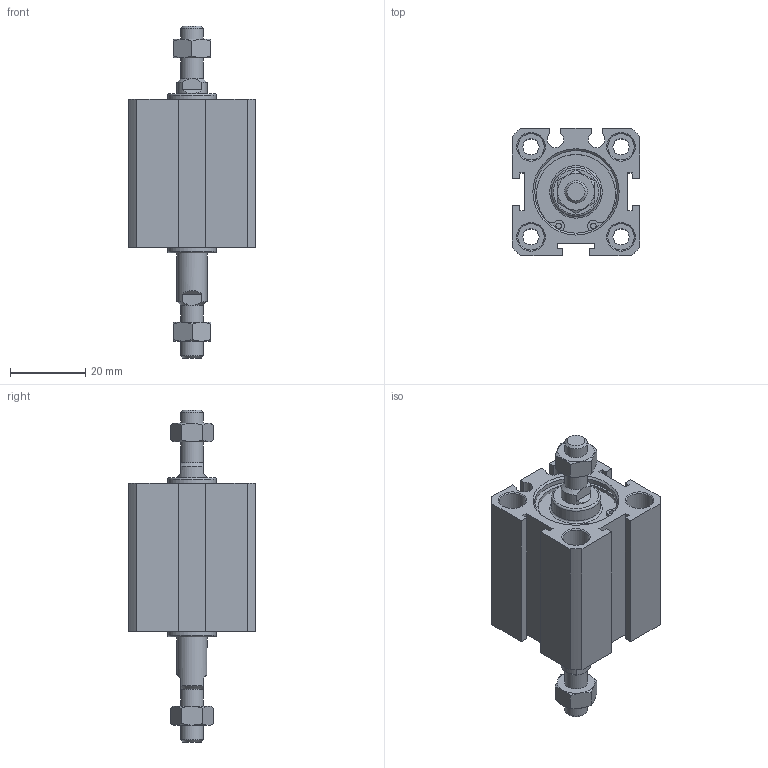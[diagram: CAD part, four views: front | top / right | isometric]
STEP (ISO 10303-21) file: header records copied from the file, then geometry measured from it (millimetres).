
FILE_DESCRIPTION((''),'2;1');
FILE_NAME('I:\3D電子目錄\氣缸\JDD\JDD-BS\JDD20-BS\JDD20x10-BS.stp','2007-02-27T13:32:22',('662F206'),(''),'Autodesk Inventor 10','Autodesk Inventor 10','');
FILE_SCHEMA(('AUTOMOTIVE_DESIGN { 1 0 10303 214 1 1 1 1 }'));
Length unit declared in the file: millimetre
Products named in the file (3): JDD20-BS; R 形環 23
Assembly tree (3 placements, depth 2):
  JDD20-BS
    JDD20-BS
    R 形環 23  x2
Bounding box: 34 x 34 x 88.5 mm (x, y, z)
Volume: 38412.9 mm3; surface area: 15014.1 mm2
Topology: 3 solids, 3 shells, 179 faces, 407 edges, 260 vertices
Faces by surface type: plane 84, cylinder 51, cone 32, bspline 10, torus 2
Full cylindrical faces by diameter (mm): 1.5 x6, 4.3 x4, 6 x4, 7 x8, 8 x1, 13 x2, 22 x4, 23.2 x2
Entity records: 4509 total; most frequent: CARTESIAN_POINT 953, DIRECTION 732, ORIENTED_EDGE 638, EDGE_CURVE 319, AXIS2_PLACEMENT_3D 294, EDGE_LOOP 256, VERTEX_POINT 233, FACE_OUTER_BOUND 167
